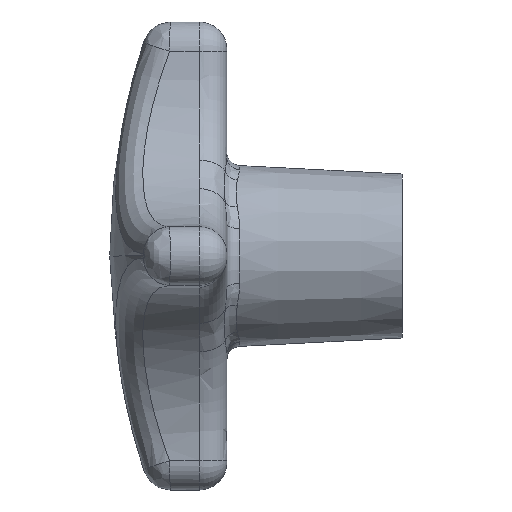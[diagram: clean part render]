
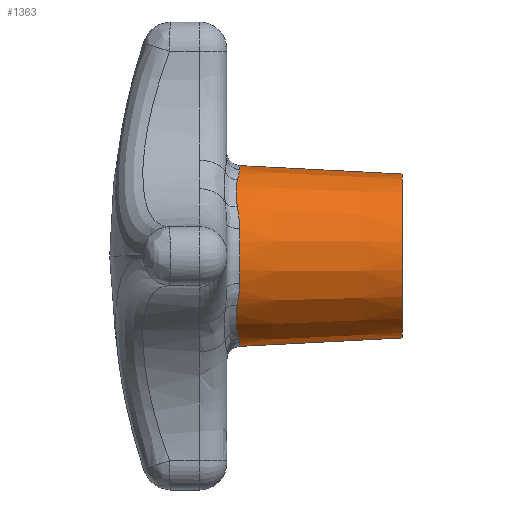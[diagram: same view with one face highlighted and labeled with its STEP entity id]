
A CAD part, left-side view. The second image highlights one B-rep face of the part: STEP entity #1363.
In plain terms, the highlighted conical face has half-angle 3 degrees and reference radius 7 mm.
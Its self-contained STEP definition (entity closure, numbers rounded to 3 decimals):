
#19 = DIRECTION ( 'NONE',  ( 0., -1., 0. ) ) ;
#134 = CARTESIAN_POINT ( 'NONE',  ( -4.218, -0.897, 6.489 ) ) ;
#156 = B_SPLINE_CURVE_WITH_KNOTS ( 'NONE', 3,
 ( #160, #427, #933, #2496 ),
 .UNSPECIFIED., .F., .F.,
 ( 4, 4 ),
 ( 0., 0.002 ),
 .UNSPECIFIED. ) ;
#160 = CARTESIAN_POINT ( 'NONE',  ( -7.363, -1.106, -2.349 ) ) ;
#163 = VERTEX_POINT ( 'NONE', #1386 ) ;
#191 = CARTESIAN_POINT ( 'NONE',  ( -3.016, -1.106, 7.15 ) ) ;
#193 = VECTOR ( 'NONE', #3352, 1000. ) ;
#196 = CARTESIAN_POINT ( 'NONE',  ( -3.636, -0.991, -6.861 ) ) ;
#208 = ORIENTED_EDGE ( 'NONE', *, *, #2575, .F. ) ;
#289 = EDGE_CURVE ( 'NONE', #1482, #2230, #2226, .T. ) ;
#363 = EDGE_CURVE ( 'NONE', #2317, #2237, #1223, .T. ) ;
#376 = VERTEX_POINT ( 'NONE', #2881 ) ;
#400 = DIRECTION ( 'NONE',  ( 0., 1., 0. ) ) ;
#427 = CARTESIAN_POINT ( 'NONE',  ( -7.15, -1.106, -3.016 ) ) ;
#512 = CARTESIAN_POINT ( 'NONE',  ( -6.489, -0.897, 4.218 ) ) ;
#524 = DIRECTION ( 'NONE',  ( 0., 0.999, 0.052 ) ) ;
#553 = CARTESIAN_POINT ( 'NONE',  ( -7.363, -1.106, -2.349 ) ) ;
#624 = ORIENTED_EDGE ( 'NONE', *, *, #363, .T. ) ;
#662 = ORIENTED_EDGE ( 'NONE', *, *, #289, .T. ) ;
#675 = DIRECTION ( 'NONE',  ( 0., -1., 0. ) ) ;
#681 = CARTESIAN_POINT ( 'NONE',  ( -6.489, -0.897, 4.218 ) ) ;
#684 = CARTESIAN_POINT ( 'NONE',  ( -5.087, -0.807, -5.845 ) ) ;
#712 = EDGE_CURVE ( 'NONE', #2230, #163, #1932, .T. ) ;
#749 = ORIENTED_EDGE ( 'NONE', *, *, #2238, .T. ) ;
#765 = AXIS2_PLACEMENT_3D ( 'NONE', #2209, #1142, #923 ) ;
#822 = ORIENTED_EDGE ( 'NONE', *, *, #2969, .T. ) ;
#897 = AXIS2_PLACEMENT_3D ( 'NONE', #3094, #3105, #1529 ) ;
#919 = EDGE_CURVE ( 'NONE', #376, #3326, #3241, .T. ) ;
#923 = DIRECTION ( 'NONE',  ( 0., 0., -1. ) ) ;
#933 = CARTESIAN_POINT ( 'NONE',  ( -6.861, -0.991, -3.636 ) ) ;
#954 = CARTESIAN_POINT ( 'NONE',  ( -6.343, -0.861, 4.445 ) ) ;
#957 = CARTESIAN_POINT ( 'NONE',  ( -4.665, -0.838, -6.185 ) ) ;
#986 = CARTESIAN_POINT ( 'NONE',  ( -3.016, -1.106, -7.15 ) ) ;
#1000 = CARTESIAN_POINT ( 'NONE',  ( -2.349, -1.106, -7.363 ) ) ;
#1005 = CARTESIAN_POINT ( 'NONE',  ( -6.489, -0.897, -4.218 ) ) ;
#1018 = CARTESIAN_POINT ( 'NONE',  ( 0., -15., 7. ) ) ;
#1023 = ORIENTED_EDGE ( 'NONE', *, *, #2427, .T. ) ;
#1142 = DIRECTION ( 'NONE',  ( 0., -1., 0. ) ) ;
#1184 = DIRECTION ( 'NONE',  ( 0., 0., 1. ) ) ;
#1205 = B_SPLINE_CURVE_WITH_KNOTS ( 'NONE', 3,
 ( #3284, #1715, #2259, #1731, #3294, #2529, #684, #957, #1260, #3321 ),
 .UNSPECIFIED., .F., .F.,
 ( 4, 2, 2, 2, 4 ),
 ( 0., 0.001, 0.002, 0.002, 0.003 ),
 .UNSPECIFIED. ) ;
#1216 = AXIS2_PLACEMENT_3D ( 'NONE', #1966, #400, #1184 ) ;
#1223 = LINE ( 'NONE', #1018, #2986 ) ;
#1238 = ORIENTED_EDGE ( 'NONE', *, *, #2465, .T. ) ;
#1260 = CARTESIAN_POINT ( 'NONE',  ( -4.445, -0.861, -6.343 ) ) ;
#1270 = ORIENTED_EDGE ( 'NONE', *, *, #3320, .T. ) ;
#1316 = DIRECTION ( 'NONE',  ( 0., 0., -1. ) ) ;
#1363 = ADVANCED_FACE ( 'NONE', ( #3220 ), #2433, .T. ) ;
#1386 = CARTESIAN_POINT ( 'NONE',  ( 0., -1.106, -7.728 ) ) ;
#1420 = CIRCLE ( 'NONE', #897, 7. ) ;
#1482 = VERTEX_POINT ( 'NONE', #1815 ) ;
#1515 = ORIENTED_EDGE ( 'NONE', *, *, #919, .T. ) ;
#1529 = DIRECTION ( 'NONE',  ( 0., 0., 1. ) ) ;
#1540 = CIRCLE ( 'NONE', #1573, 7.728 ) ;
#1559 = CARTESIAN_POINT ( 'NONE',  ( 0., -15., 7. ) ) ;
#1566 = CARTESIAN_POINT ( 'NONE',  ( -7.363, -1.106, 2.349 ) ) ;
#1573 = AXIS2_PLACEMENT_3D ( 'NONE', #3343, #19, #1316 ) ;
#1633 = EDGE_LOOP ( 'NONE', ( #208, #749, #624, #1270, #822, #1649, #1515, #2569, #1023, #1238, #662, #2680 ) ) ;
#1649 = ORIENTED_EDGE ( 'NONE', *, *, #2904, .T. ) ;
#1715 = CARTESIAN_POINT ( 'NONE',  ( -6.343, -0.861, -4.446 ) ) ;
#1727 = DIRECTION ( 'NONE',  ( 0., 0., -1. ) ) ;
#1731 = CARTESIAN_POINT ( 'NONE',  ( -5.849, -0.808, -5.082 ) ) ;
#1791 = CARTESIAN_POINT ( 'NONE',  ( -7.363, -1.106, 2.349 ) ) ;
#1815 = CARTESIAN_POINT ( 'NONE',  ( -4.218, -0.897, -6.489 ) ) ;
#1844 = VERTEX_POINT ( 'NONE', #553 ) ;
#1932 = CIRCLE ( 'NONE', #2242, 7.728 ) ;
#1966 = CARTESIAN_POINT ( 'NONE',  ( 0., -15., 0. ) ) ;
#1969 = CARTESIAN_POINT ( 'NONE',  ( 0., -1.106, 0. ) ) ;
#1993 = CARTESIAN_POINT ( 'NONE',  ( -6.185, -0.838, 4.665 ) ) ;
#2025 = CARTESIAN_POINT ( 'NONE',  ( -5.663, -0.8, 5.29 ) ) ;
#2039 = CARTESIAN_POINT ( 'NONE',  ( 0., -15., -7. ) ) ;
#2209 = CARTESIAN_POINT ( 'NONE',  ( 0., -1.106, 0. ) ) ;
#2226 = B_SPLINE_CURVE_WITH_KNOTS ( 'NONE', 3,
 ( #2289, #196, #986, #3056 ),
 .UNSPECIFIED., .F., .F.,
 ( 4, 4 ),
 ( 0., 0.002 ),
 .UNSPECIFIED. ) ;
#2230 = VERTEX_POINT ( 'NONE', #1000 ) ;
#2237 = VERTEX_POINT ( 'NONE', #2847 ) ;
#2238 = EDGE_CURVE ( 'NONE', #2521, #2317, #1420, .T. ) ;
#2242 = AXIS2_PLACEMENT_3D ( 'NONE', #1969, #675, #1727 ) ;
#2259 = CARTESIAN_POINT ( 'NONE',  ( -6.186, -0.838, -4.664 ) ) ;
#2284 = CARTESIAN_POINT ( 'NONE',  ( -5.845, -0.807, 5.087 ) ) ;
#2289 = CARTESIAN_POINT ( 'NONE',  ( -4.218, -0.897, -6.489 ) ) ;
#2309 = CARTESIAN_POINT ( 'NONE',  ( -4.218, -0.897, 6.489 ) ) ;
#2317 = VERTEX_POINT ( 'NONE', #1559 ) ;
#2330 = CARTESIAN_POINT ( 'NONE',  ( -2.349, -1.106, 7.363 ) ) ;
#2342 = CARTESIAN_POINT ( 'NONE',  ( -3.636, -0.991, 6.861 ) ) ;
#2370 = CARTESIAN_POINT ( 'NONE',  ( -7.15, -1.106, 3.016 ) ) ;
#2427 = EDGE_CURVE ( 'NONE', #1844, #2476, #156, .T. ) ;
#2433 = CONICAL_SURFACE ( 'NONE', #1216, 7., 0.052 ) ;
#2465 = EDGE_CURVE ( 'NONE', #2476, #1482, #1205, .T. ) ;
#2476 = VERTEX_POINT ( 'NONE', #1005 ) ;
#2496 = CARTESIAN_POINT ( 'NONE',  ( -6.489, -0.897, -4.218 ) ) ;
#2521 = VERTEX_POINT ( 'NONE', #2039 ) ;
#2529 = CARTESIAN_POINT ( 'NONE',  ( -5.29, -0.8, -5.663 ) ) ;
#2569 = ORIENTED_EDGE ( 'NONE', *, *, #2698, .T. ) ;
#2575 = EDGE_CURVE ( 'NONE', #2521, #163, #2979, .T. ) ;
#2680 = ORIENTED_EDGE ( 'NONE', *, *, #712, .T. ) ;
#2698 = EDGE_CURVE ( 'NONE', #3326, #1844, #2706, .T. ) ;
#2706 = CIRCLE ( 'NONE', #765, 7.728 ) ;
#2775 = CARTESIAN_POINT ( 'NONE',  ( -5.282, -0.801, 5.67 ) ) ;
#2783 = CARTESIAN_POINT ( 'NONE',  ( -4.664, -0.838, 6.186 ) ) ;
#2785 = B_SPLINE_CURVE_WITH_KNOTS ( 'NONE', 3,
 ( #134, #3065, #2783, #3281, #2775, #2025, #2284, #1993, #954, #681 ),
 .UNSPECIFIED., .F., .F.,
 ( 4, 2, 2, 2, 4 ),
 ( 0., 0.001, 0.002, 0.002, 0.003 ),
 .UNSPECIFIED. ) ;
#2839 = CARTESIAN_POINT ( 'NONE',  ( -2.349, -1.106, 7.363 ) ) ;
#2847 = CARTESIAN_POINT ( 'NONE',  ( 0., -1.106, 7.728 ) ) ;
#2881 = CARTESIAN_POINT ( 'NONE',  ( -6.489, -0.897, 4.218 ) ) ;
#2894 = CARTESIAN_POINT ( 'NONE',  ( -6.861, -0.991, 3.636 ) ) ;
#2904 = EDGE_CURVE ( 'NONE', #3033, #376, #2785, .T. ) ;
#2969 = EDGE_CURVE ( 'NONE', #3356, #3033, #3053, .T. ) ;
#2979 = LINE ( 'NONE', #3332, #193 ) ;
#2986 = VECTOR ( 'NONE', #524, 1000. ) ;
#3033 = VERTEX_POINT ( 'NONE', #3088 ) ;
#3053 = B_SPLINE_CURVE_WITH_KNOTS ( 'NONE', 3,
 ( #2839, #191, #2342, #2309 ),
 .UNSPECIFIED., .F., .F.,
 ( 4, 4 ),
 ( 0., 0.002 ),
 .UNSPECIFIED. ) ;
#3056 = CARTESIAN_POINT ( 'NONE',  ( -2.349, -1.106, -7.363 ) ) ;
#3065 = CARTESIAN_POINT ( 'NONE',  ( -4.446, -0.861, 6.343 ) ) ;
#3088 = CARTESIAN_POINT ( 'NONE',  ( -4.218, -0.897, 6.489 ) ) ;
#3094 = CARTESIAN_POINT ( 'NONE',  ( 0., -15., 0. ) ) ;
#3105 = DIRECTION ( 'NONE',  ( 0., 1., 0. ) ) ;
#3220 = FACE_OUTER_BOUND ( 'NONE', #1633, .T. ) ;
#3241 = B_SPLINE_CURVE_WITH_KNOTS ( 'NONE', 3,
 ( #512, #2894, #2370, #1566 ),
 .UNSPECIFIED., .F., .F.,
 ( 4, 4 ),
 ( 0., 0.002 ),
 .UNSPECIFIED. ) ;
#3281 = CARTESIAN_POINT ( 'NONE',  ( -5.082, -0.808, 5.849 ) ) ;
#3284 = CARTESIAN_POINT ( 'NONE',  ( -6.489, -0.897, -4.218 ) ) ;
#3294 = CARTESIAN_POINT ( 'NONE',  ( -5.67, -0.801, -5.282 ) ) ;
#3320 = EDGE_CURVE ( 'NONE', #2237, #3356, #1540, .T. ) ;
#3321 = CARTESIAN_POINT ( 'NONE',  ( -4.218, -0.897, -6.489 ) ) ;
#3326 = VERTEX_POINT ( 'NONE', #1791 ) ;
#3332 = CARTESIAN_POINT ( 'NONE',  ( 0., -15., -7. ) ) ;
#3343 = CARTESIAN_POINT ( 'NONE',  ( 0., -1.106, 0. ) ) ;
#3352 = DIRECTION ( 'NONE',  ( 0., 0.999, -0.052 ) ) ;
#3356 = VERTEX_POINT ( 'NONE', #2330 ) ;
